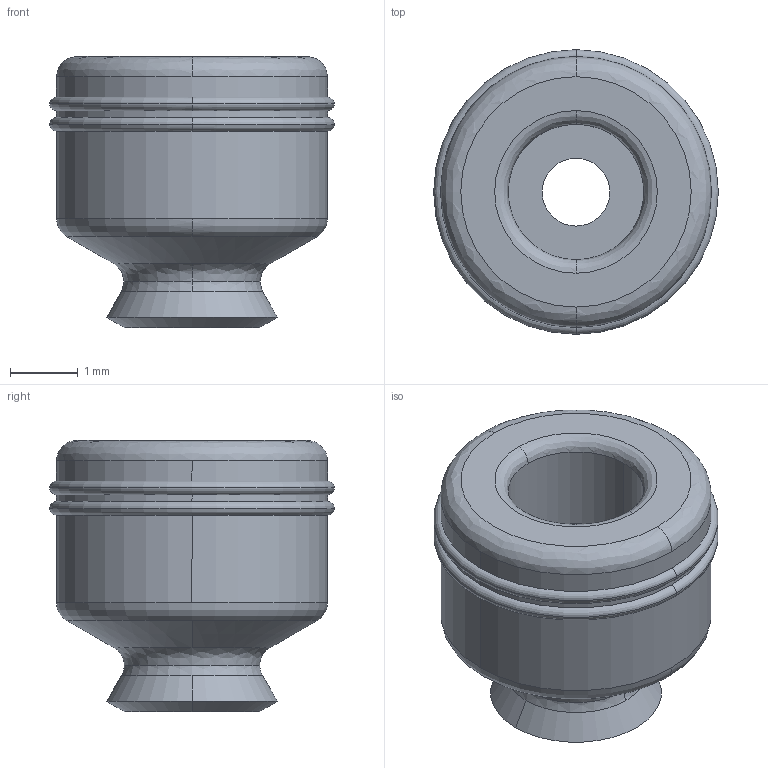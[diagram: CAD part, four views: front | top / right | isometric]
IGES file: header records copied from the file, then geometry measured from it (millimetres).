
Start section: 3D InterOp IGES (v. 2018 1.0.2), Spatial Corp. Copyright (c) 1999-2017.
Global section: file name: schmalz_10_01_01_10050_5icl9tctfdq46p0urtebz1kfl.igs; native system: Spatial Corp.; preprocessor: 3D InterOp ACIS/IGES; author: TraceParts; organization: TraceParts S.A.; date: 20181127.080343; units: millimetre
Bounding box: 4.2 x 4.2 x 4 mm (x, y, z)
Surface area: 94.8 mm2 (no closed solid volume)
Topology: 0 solids, 0 shells, 46 faces, 240 edges, 240 vertices
Faces by surface type: revolution 42, extrusion 4
